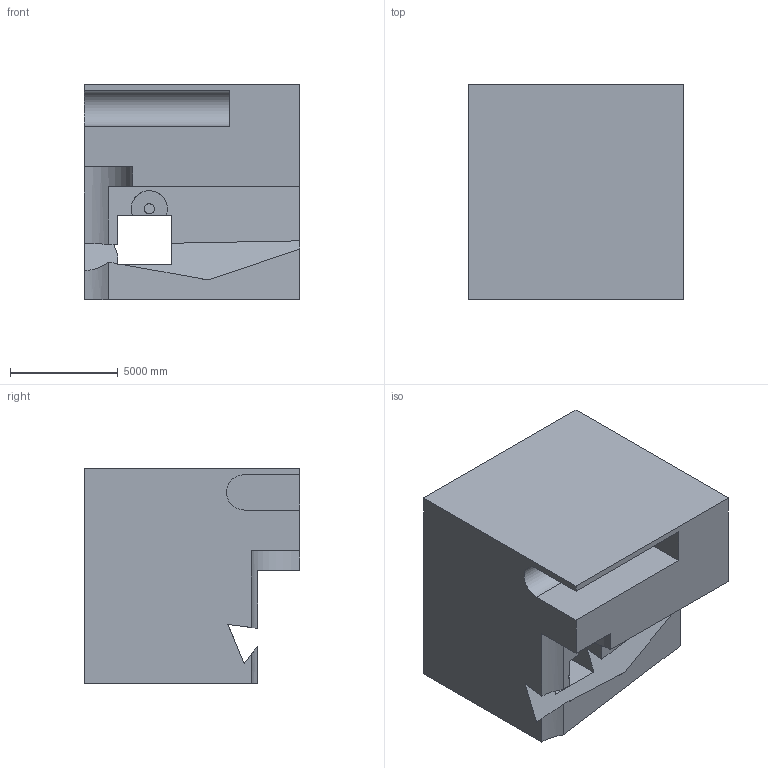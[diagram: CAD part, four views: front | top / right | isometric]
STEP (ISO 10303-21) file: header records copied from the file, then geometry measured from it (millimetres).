
FILE_DESCRIPTION (( 'STEP AP203' ), '1' );
FILE_NAME ('60.STEP', '2022-09-02T13:55:15', ( 'user' ), ( '' ), 'SwSTEP 2.0', 'SolidWorks 2021', '' );
FILE_SCHEMA (( 'CONFIG_CONTROL_DESIGN' ));
Length unit declared in the file: centimetre
Products named in the file (1): 60
Bounding box: 10000 x 10000 x 10000 mm (x, y, z)
Volume: 771710350510 mm3; surface area: 699286924.4 mm2
Topology: 1 solids, 1 shells, 36 faces, 102 edges, 68 vertices
Faces by surface type: plane 30, cylinder 6
Entity records: 1238 total; most frequent: CARTESIAN_POINT 225, ORIENTED_EDGE 204, DIRECTION 179, EDGE_CURVE 102, VECTOR 89, LINE 89, VERTEX_POINT 68, AXIS2_PLACEMENT_3D 45
